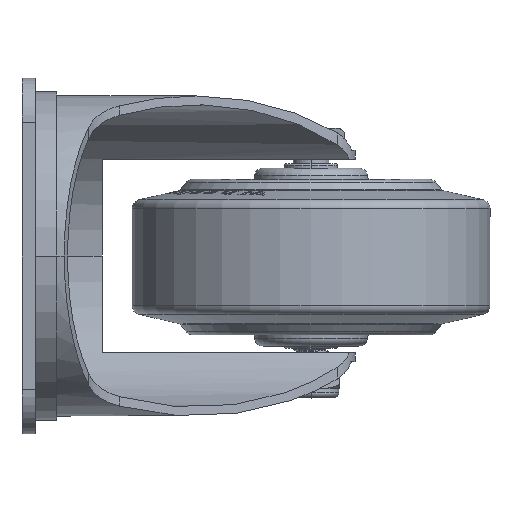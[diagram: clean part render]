
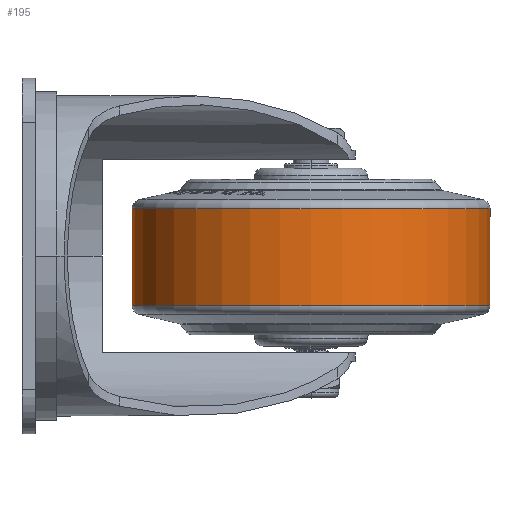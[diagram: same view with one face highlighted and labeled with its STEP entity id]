
A CAD part, left-side view. The second image highlights one B-rep face of the part: STEP entity #195.
In plain terms, the highlighted cylindrical face has radius 40.25 mm (diameter 80.5 mm), a partial arc.
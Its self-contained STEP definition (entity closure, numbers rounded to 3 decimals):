
#195 = ADVANCED_FACE ( 'NONE', ( #16489 ), #17025, .T. ) ;
#742 = EDGE_CURVE ( 'NONE', #30911, #2488, #5268, .T. ) ;
#1305 = CARTESIAN_POINT ( 'NONE',  ( 0., 0., 40.25 ) ) ;
#2325 = ORIENTED_EDGE ( 'NONE', *, *, #5593, .T. ) ;
#2488 = VERTEX_POINT ( 'NONE', #31610 ) ;
#3445 = CARTESIAN_POINT ( 'NONE',  ( 0., 10.912, 40.25 ) ) ;
#4649 = LINE ( 'NONE', #21820, #5402 ) ;
#4840 = DIRECTION ( 'NONE',  ( 0., -1., 0. ) ) ;
#5119 = EDGE_CURVE ( 'NONE', #30911, #25883, #30362, .T. ) ;
#5268 = CIRCLE ( 'NONE', #22164, 40.25 ) ;
#5402 = VECTOR ( 'NONE', #4840, 1000. ) ;
#5593 = EDGE_CURVE ( 'NONE', #2488, #33261, #4649, .T. ) ;
#6908 = CIRCLE ( 'NONE', #18964, 40.25 ) ;
#7094 = AXIS2_PLACEMENT_3D ( 'NONE', #7975, #16660, #19668 ) ;
#7975 = CARTESIAN_POINT ( 'NONE',  ( 0., 0., 0. ) ) ;
#9815 = ORIENTED_EDGE ( 'NONE', *, *, #5119, .F. ) ;
#10154 = DIRECTION ( 'NONE',  ( 0., -1., 0. ) ) ;
#14269 = EDGE_LOOP ( 'NONE', ( #9815, #34725, #2325, #15594 ) ) ;
#15594 = ORIENTED_EDGE ( 'NONE', *, *, #35085, .F. ) ;
#16489 = FACE_OUTER_BOUND ( 'NONE', #14269, .T. ) ;
#16660 = DIRECTION ( 'NONE',  ( 0., -1., 0. ) ) ;
#17025 = CYLINDRICAL_SURFACE ( 'NONE', #7094, 40.25 ) ;
#18499 = DIRECTION ( 'NONE',  ( 0., -1., 0. ) ) ;
#18964 = AXIS2_PLACEMENT_3D ( 'NONE', #32853, #18499, #34468 ) ;
#19668 = DIRECTION ( 'NONE',  ( 0., 0., -1. ) ) ;
#20343 = CARTESIAN_POINT ( 'NONE',  ( 0., 10.912, 0. ) ) ;
#21667 = VECTOR ( 'NONE', #10154, 1000. ) ;
#21820 = CARTESIAN_POINT ( 'NONE',  ( 0., 0., -40.25 ) ) ;
#22164 = AXIS2_PLACEMENT_3D ( 'NONE', #20343, #23011, #31855 ) ;
#23011 = DIRECTION ( 'NONE',  ( 0., -1., 0. ) ) ;
#25883 = VERTEX_POINT ( 'NONE', #27528 ) ;
#27528 = CARTESIAN_POINT ( 'NONE',  ( 0., -10.912, 40.25 ) ) ;
#30362 = LINE ( 'NONE', #1305, #21667 ) ;
#30911 = VERTEX_POINT ( 'NONE', #3445 ) ;
#31610 = CARTESIAN_POINT ( 'NONE',  ( 0., 10.912, -40.25 ) ) ;
#31855 = DIRECTION ( 'NONE',  ( 0., 0., -1. ) ) ;
#32375 = CARTESIAN_POINT ( 'NONE',  ( 0., -10.912, -40.25 ) ) ;
#32853 = CARTESIAN_POINT ( 'NONE',  ( 0., -10.912, 0. ) ) ;
#33261 = VERTEX_POINT ( 'NONE', #32375 ) ;
#34468 = DIRECTION ( 'NONE',  ( 0., 0., -1. ) ) ;
#34725 = ORIENTED_EDGE ( 'NONE', *, *, #742, .T. ) ;
#35085 = EDGE_CURVE ( 'NONE', #25883, #33261, #6908, .T. ) ;
